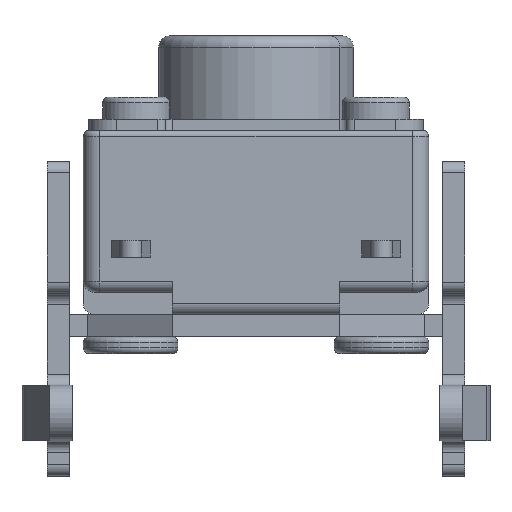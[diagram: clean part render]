
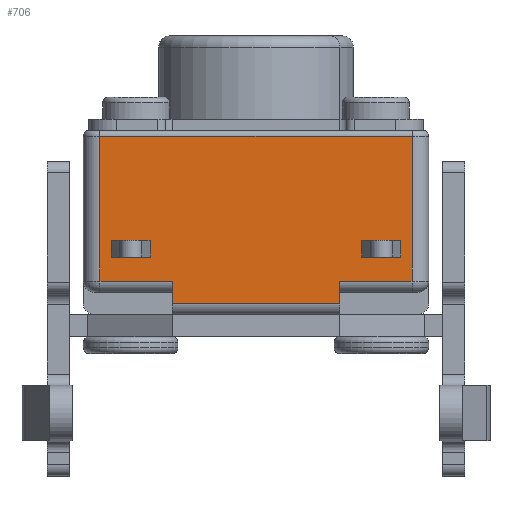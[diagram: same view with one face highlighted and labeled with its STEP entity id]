
A CAD part, front view. The second image highlights one B-rep face of the part: STEP entity #706.
In plain terms, the highlighted planar face has unit normal (0, -1, 0).
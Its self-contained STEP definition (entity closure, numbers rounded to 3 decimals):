
#506 = EDGE_CURVE ( 'NONE', #8088, #8025, #6986, .T. ) ;
#517 = EDGE_CURVE ( 'NONE', #7909, #7891, #7003, .T. ) ;
#518 = EDGE_CURVE ( 'NONE', #7890, #8073, #7005, .T. ) ;
#521 = EDGE_CURVE ( 'NONE', #8065, #8140, #7011, .T. ) ;
#522 = EDGE_CURVE ( 'NONE', #7891, #7890, #7004, .T. ) ;
#525 = EDGE_CURVE ( 'NONE', #8196, #8140, #7012, .T. ) ;
#526 = EDGE_CURVE ( 'NONE', #7981, #8196, #7020, .T. ) ;
#527 = EDGE_CURVE ( 'NONE', #7909, #8073, #7018, .T. ) ;
#529 = EDGE_CURVE ( 'NONE', #8077, #7987, #7024, .T. ) ;
#530 = EDGE_CURVE ( 'NONE', #8088, #8102, #7028, .T. ) ;
#531 = EDGE_CURVE ( 'NONE', #7851, #7987, #7030, .T. ) ;
#536 = EDGE_CURVE ( 'NONE', #7851, #8025, #7038, .T. ) ;
#537 = EDGE_CURVE ( 'NONE', #8158, #8077, #7036, .T. ) ;
#538 = EDGE_CURVE ( 'NONE', #8158, #8181, #7040, .T. ) ;
#605 = EDGE_CURVE ( 'NONE', #8065, #7981, #7137, .T. ) ;
#706 = ADVANCED_FACE ( 'NONE', ( #1121, #1125, #1122 ), #10676, .F. ) ;
#1121 = FACE_BOUND ( 'NONE', #7752, .T. ) ;
#1122 = FACE_BOUND ( 'NONE', #7751, .T. ) ;
#1125 = FACE_OUTER_BOUND ( 'NONE', #7774, .T. ) ;
#4417 = CARTESIAN_POINT ( 'NONE',  ( -1.5, 0.9, 1. ) ) ;
#4455 = CARTESIAN_POINT ( 'NONE',  ( -1.9, 0.9, 1.43 ) ) ;
#4456 = CARTESIAN_POINT ( 'NONE',  ( -2.6, 0.9, 1.43 ) ) ;
#4474 = CARTESIAN_POINT ( 'NONE',  ( -2.6, 0.9, 1.73 ) ) ;
#4500 = CARTESIAN_POINT ( 'NONE',  ( 2.6, 0.9, 1.73 ) ) ;
#4506 = CARTESIAN_POINT ( 'NONE',  ( -1.5, 0.9, 0.6 ) ) ;
#4544 = CARTESIAN_POINT ( 'NONE',  ( -2.8, 0.9, 1. ) ) ;
#4584 = CARTESIAN_POINT ( 'NONE',  ( 2.6, 0.9, 1.43 ) ) ;
#4592 = CARTESIAN_POINT ( 'NONE',  ( -1.9, 0.9, 1.73 ) ) ;
#4596 = CARTESIAN_POINT ( 'NONE',  ( 1.5, 0.9, 0.6 ) ) ;
#4607 = CARTESIAN_POINT ( 'NONE',  ( -2.8, 0.9, 3.6 ) ) ;
#4621 = CARTESIAN_POINT ( 'NONE',  ( 2.8, 0.9, 3.6 ) ) ;
#4659 = CARTESIAN_POINT ( 'NONE',  ( 1.9, 0.9, 1.43 ) ) ;
#4677 = CARTESIAN_POINT ( 'NONE',  ( 1.5, 0.9, 1. ) ) ;
#4700 = CARTESIAN_POINT ( 'NONE',  ( 2.8, 0.9, 1. ) ) ;
#4715 = CARTESIAN_POINT ( 'NONE',  ( 1.9, 0.9, 1.73 ) ) ;
#4732 = CARTESIAN_POINT ( 'NONE',  ( 2.8, 0.9, 3.7 ) ) ;
#4734 = DIRECTION ( 'NONE',  ( 0., 0., -1. ) ) ;
#5384 = VECTOR ( 'NONE', #4734, 1000. ) ;
#5390 = LINE ( 'NONE', #4732, #5384 ) ;
#6986 = LINE ( 'NONE', #9524, #6989 ) ;
#6989 = VECTOR ( 'NONE', #9526, 1000. ) ;
#7003 = LINE ( 'NONE', #9550, #7006 ) ;
#7004 = LINE ( 'NONE', #9559, #7015 ) ;
#7005 = LINE ( 'NONE', #9554, #7008 ) ;
#7006 = VECTOR ( 'NONE', #9545, 1000. ) ;
#7008 = VECTOR ( 'NONE', #9555, 1000. ) ;
#7011 = LINE ( 'NONE', #9543, #7013 ) ;
#7012 = LINE ( 'NONE', #9558, #7021 ) ;
#7013 = VECTOR ( 'NONE', #9549, 1000. ) ;
#7015 = VECTOR ( 'NONE', #9564, 1000. ) ;
#7018 = LINE ( 'NONE', #9563, #7025 ) ;
#7020 = LINE ( 'NONE', #9571, #7023 ) ;
#7021 = VECTOR ( 'NONE', #9570, 1000. ) ;
#7023 = VECTOR ( 'NONE', #9573, 1000. ) ;
#7024 = LINE ( 'NONE', #9572, #7029 ) ;
#7025 = VECTOR ( 'NONE', #9574, 1000. ) ;
#7028 = LINE ( 'NONE', #9577, #7031 ) ;
#7029 = VECTOR ( 'NONE', #9576, 1000. ) ;
#7030 = LINE ( 'NONE', #9579, #7033 ) ;
#7031 = VECTOR ( 'NONE', #9578, 1000. ) ;
#7033 = VECTOR ( 'NONE', #9580, 1000. ) ;
#7036 = LINE ( 'NONE', #9586, #7043 ) ;
#7038 = LINE ( 'NONE', #9593, #7041 ) ;
#7040 = LINE ( 'NONE', #9591, #7045 ) ;
#7041 = VECTOR ( 'NONE', #9594, 1000. ) ;
#7043 = VECTOR ( 'NONE', #9595, 1000. ) ;
#7045 = VECTOR ( 'NONE', #9596, 1000. ) ;
#7137 = LINE ( 'NONE', #9763, #7139 ) ;
#7139 = VECTOR ( 'NONE', #9764, 1000. ) ;
#7513 = ORIENTED_EDGE ( 'NONE', *, *, #529, .F. ) ;
#7515 = ORIENTED_EDGE ( 'NONE', *, *, #518, .F. ) ;
#7523 = ORIENTED_EDGE ( 'NONE', *, *, #538, .T. ) ;
#7530 = ORIENTED_EDGE ( 'NONE', *, *, #530, .F. ) ;
#7538 = ORIENTED_EDGE ( 'NONE', *, *, #8585, .F. ) ;
#7544 = ORIENTED_EDGE ( 'NONE', *, *, #526, .F. ) ;
#7547 = ORIENTED_EDGE ( 'NONE', *, *, #605, .F. ) ;
#7575 = ORIENTED_EDGE ( 'NONE', *, *, #525, .F. ) ;
#7581 = ORIENTED_EDGE ( 'NONE', *, *, #506, .T. ) ;
#7593 = ORIENTED_EDGE ( 'NONE', *, *, #521, .T. ) ;
#7601 = ORIENTED_EDGE ( 'NONE', *, *, #536, .F. ) ;
#7637 = ORIENTED_EDGE ( 'NONE', *, *, #537, .F. ) ;
#7638 = ORIENTED_EDGE ( 'NONE', *, *, #522, .F. ) ;
#7643 = ORIENTED_EDGE ( 'NONE', *, *, #531, .T. ) ;
#7651 = ORIENTED_EDGE ( 'NONE', *, *, #527, .T. ) ;
#7665 = ORIENTED_EDGE ( 'NONE', *, *, #517, .F. ) ;
#7751 = EDGE_LOOP ( 'NONE', ( #7547, #7593, #7575, #7544 ) ) ;
#7752 = EDGE_LOOP ( 'NONE', ( #7515, #7638, #7665, #7651 ) ) ;
#7774 = EDGE_LOOP ( 'NONE', ( #7643, #7513, #7637, #7523, #7538, #7530, #7581, #7601 ) ) ;
#7851 = VERTEX_POINT ( 'NONE', #4417 ) ;
#7890 = VERTEX_POINT ( 'NONE', #4455 ) ;
#7891 = VERTEX_POINT ( 'NONE', #4456 ) ;
#7909 = VERTEX_POINT ( 'NONE', #4474 ) ;
#7981 = VERTEX_POINT ( 'NONE', #4500 ) ;
#7987 = VERTEX_POINT ( 'NONE', #4506 ) ;
#8025 = VERTEX_POINT ( 'NONE', #4544 ) ;
#8065 = VERTEX_POINT ( 'NONE', #4584 ) ;
#8073 = VERTEX_POINT ( 'NONE', #4592 ) ;
#8077 = VERTEX_POINT ( 'NONE', #4596 ) ;
#8088 = VERTEX_POINT ( 'NONE', #4607 ) ;
#8102 = VERTEX_POINT ( 'NONE', #4621 ) ;
#8140 = VERTEX_POINT ( 'NONE', #4659 ) ;
#8158 = VERTEX_POINT ( 'NONE', #4677 ) ;
#8181 = VERTEX_POINT ( 'NONE', #4700 ) ;
#8196 = VERTEX_POINT ( 'NONE', #4715 ) ;
#8585 = EDGE_CURVE ( 'NONE', #8102, #8181, #5390, .T. ) ;
#9524 = CARTESIAN_POINT ( 'NONE',  ( -2.8, 0.9, 3.7 ) ) ;
#9526 = DIRECTION ( 'NONE',  ( 0., 0., -1. ) ) ;
#9543 = CARTESIAN_POINT ( 'NONE',  ( 0., 0.9, 1.43 ) ) ;
#9545 = DIRECTION ( 'NONE',  ( 0., 0., -1. ) ) ;
#9549 = DIRECTION ( 'NONE',  ( -1., 0., 0. ) ) ;
#9550 = CARTESIAN_POINT ( 'NONE',  ( -2.6, 0.9, 3.7 ) ) ;
#9554 = CARTESIAN_POINT ( 'NONE',  ( -1.9, 0.9, 3.7 ) ) ;
#9555 = DIRECTION ( 'NONE',  ( 0., 0., 1. ) ) ;
#9558 = CARTESIAN_POINT ( 'NONE',  ( 1.9, 0.9, 3.7 ) ) ;
#9559 = CARTESIAN_POINT ( 'NONE',  ( 0., 0.9, 1.43 ) ) ;
#9563 = CARTESIAN_POINT ( 'NONE',  ( 0., 0.9, 1.73 ) ) ;
#9564 = DIRECTION ( 'NONE',  ( 1., 0., 0. ) ) ;
#9570 = DIRECTION ( 'NONE',  ( 0., 0., -1. ) ) ;
#9571 = CARTESIAN_POINT ( 'NONE',  ( 0., 0.9, 1.73 ) ) ;
#9572 = CARTESIAN_POINT ( 'NONE',  ( -2.8, 0.9, 0.6 ) ) ;
#9573 = DIRECTION ( 'NONE',  ( -1., 0., 0. ) ) ;
#9574 = DIRECTION ( 'NONE',  ( 1., 0., 0. ) ) ;
#9576 = DIRECTION ( 'NONE',  ( -1., 0., 0. ) ) ;
#9577 = CARTESIAN_POINT ( 'NONE',  ( 0., 0.9, 3.6 ) ) ;
#9578 = DIRECTION ( 'NONE',  ( 1., 0., 0. ) ) ;
#9579 = CARTESIAN_POINT ( 'NONE',  ( -1.5, 0.9, 0.8 ) ) ;
#9580 = DIRECTION ( 'NONE',  ( 0., 0., -1. ) ) ;
#9586 = CARTESIAN_POINT ( 'NONE',  ( 1.5, 0.9, 0.8 ) ) ;
#9591 = CARTESIAN_POINT ( 'NONE',  ( 0., 0.9, 1. ) ) ;
#9593 = CARTESIAN_POINT ( 'NONE',  ( 0., 0.9, 1. ) ) ;
#9594 = DIRECTION ( 'NONE',  ( -1., 0., 0. ) ) ;
#9595 = DIRECTION ( 'NONE',  ( 0., 0., -1. ) ) ;
#9596 = DIRECTION ( 'NONE',  ( 1., 0., 0. ) ) ;
#9763 = CARTESIAN_POINT ( 'NONE',  ( 2.6, 0.9, 3.7 ) ) ;
#9764 = DIRECTION ( 'NONE',  ( 0., 0., 1. ) ) ;
#10676 = PLANE ( 'NONE',  #11293 ) ;
#10682 = CARTESIAN_POINT ( 'NONE',  ( 0., 0.9, 3.7 ) ) ;
#10683 = DIRECTION ( 'NONE',  ( 0., 1., 0. ) ) ;
#10684 = DIRECTION ( 'NONE',  ( 1., 0., 0. ) ) ;
#11293 = AXIS2_PLACEMENT_3D ( 'NONE', #10682, #10683, #10684 ) ;
